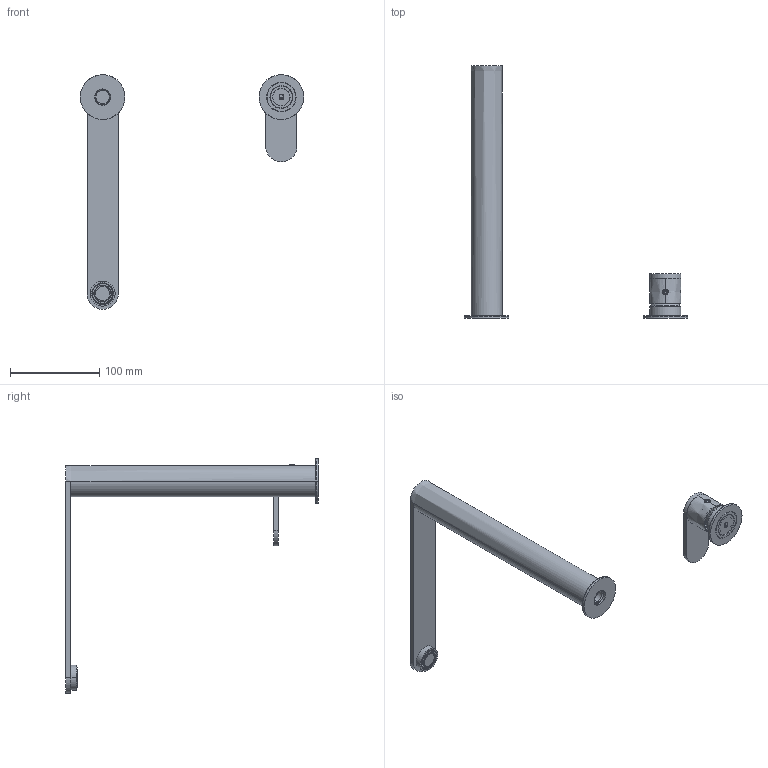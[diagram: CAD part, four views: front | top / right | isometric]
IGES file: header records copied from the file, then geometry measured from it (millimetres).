
Start section:  PTC IGES file: 79058.igs
Global section: file name: 79058.igs; native system: Creo Parametric by PTC Inc.; preprocessor: 2025443; author: carloff; organization: Unknown; date: 20261005.145012; units: millimetre
Bounding box: 250 x 283 x 262.5 mm (x, y, z)
Surface area: 113169.2 mm2 (no closed solid volume)
Topology: 0 solids, 0 shells, 586 faces, 2784 edges, 2722 vertices
Faces by surface type: revolution 403, bspline 183
